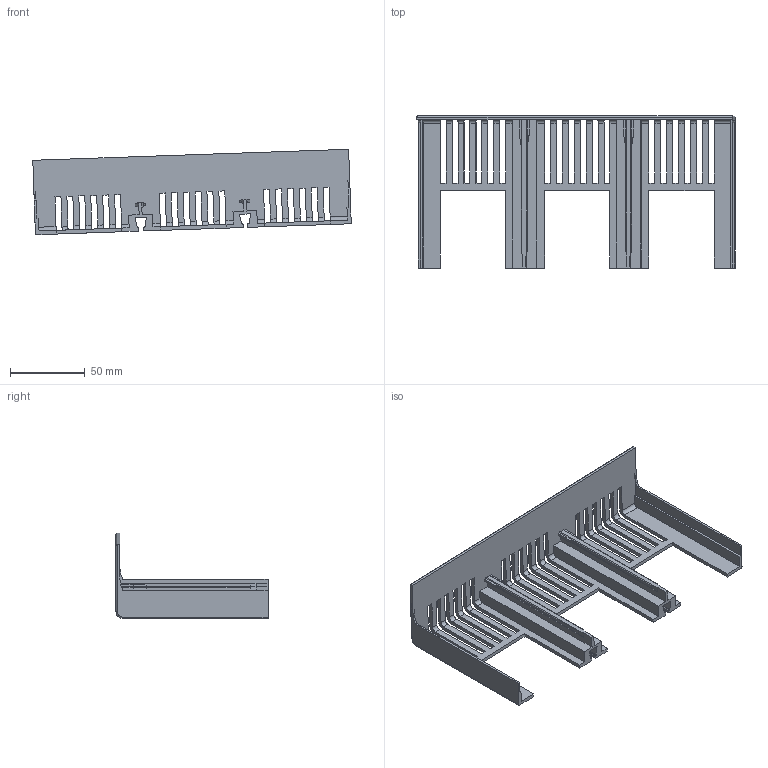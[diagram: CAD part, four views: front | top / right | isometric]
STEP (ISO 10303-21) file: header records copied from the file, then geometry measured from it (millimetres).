
FILE_DESCRIPTION (( 'STEP AP214' ), '1' );
FILE_NAME ('!TGM1NE-800-3p 孰屐祉 牮觇.STEP', '2025-12-10T13:30:03', ( '' ), ( '' ), 'SwSTEP 2.0', 'SolidWorks 2024', '' );
FILE_SCHEMA (( 'AUTOMOTIVE_DESIGN' ));
Length unit declared in the file: millimetre
Products named in the file (3): !TGM1NE-800-3p Клеммные крышки; !TGM1NE-800-3p Клеммные крышки.stp; 8003P_1_1.stp
Assembly tree (2 placements, depth 3):
  !TGM1NE-800-3p Клеммные крышки
    !TGM1NE-800-3p Клеммные крышки.stp
      8003P_1_1.stp
Bounding box: 213.58 x 102 x 57.33 mm (x, y, z)
Volume: 76869.7 mm3; surface area: 66452.8 mm2
Topology: 1 solids, 1 shells, 255 faces, 835 edges, 542 vertices
Faces by surface type: plane 160, cylinder 77, torus 10, bspline 4, sphere 4
Entity records: 9683 total; most frequent: CARTESIAN_POINT 2205, ORIENTED_EDGE 1658, DIRECTION 1477, EDGE_CURVE 829, LINE 651, VECTOR 651, VERTEX_POINT 540, AXIS2_PLACEMENT_3D 413
